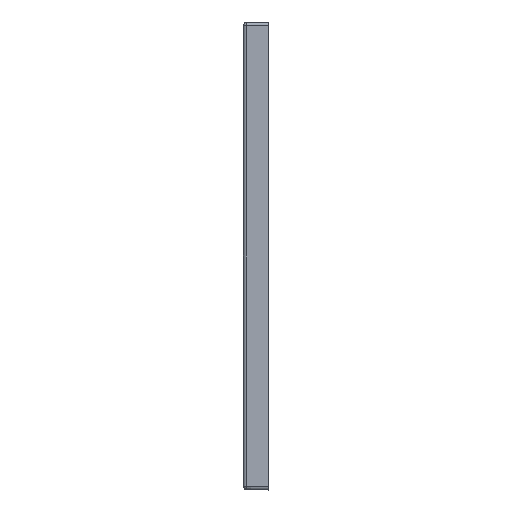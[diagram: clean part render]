
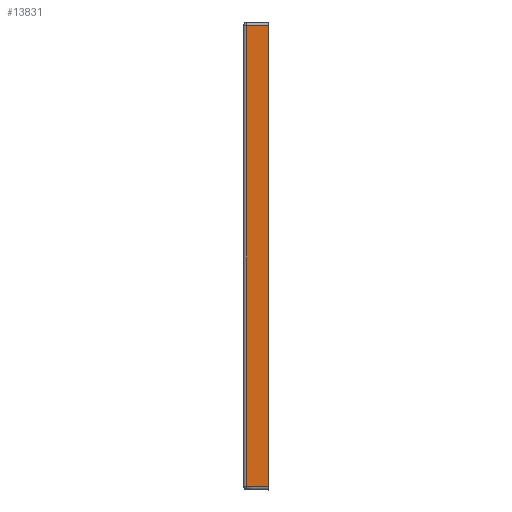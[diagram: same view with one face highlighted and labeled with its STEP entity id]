
A CAD part, left-side view. The second image highlights one B-rep face of the part: STEP entity #13831.
In plain terms, the highlighted planar face has unit normal (-1, 0.018, 0).
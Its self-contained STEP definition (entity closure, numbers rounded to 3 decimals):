
#2021 = DIRECTION ( 'NONE',  ( -1., 0.017, 0. ) ) ;
#2779 = VECTOR ( 'NONE', #4798, 1000. ) ;
#3385 = EDGE_CURVE ( 'NONE', #20992, #15025, #26857, .T. ) ;
#4798 = DIRECTION ( 'NONE',  ( 0.017, 1., -0.017 ) ) ;
#4897 = VECTOR ( 'NONE', #27032, 1000. ) ;
#6181 = VECTOR ( 'NONE', #32634, 1000. ) ;
#6645 = EDGE_CURVE ( 'NONE', #6937, #33207, #13080, .T. ) ;
#6937 = VERTEX_POINT ( 'NONE', #8892 ) ;
#8892 = CARTESIAN_POINT ( 'NONE',  ( -450.663, -38., -500.664 ) ) ;
#9151 = DIRECTION ( 'NONE',  ( 0., 0., 1. ) ) ;
#9464 = ORIENTED_EDGE ( 'NONE', *, *, #6645, .T. ) ;
#9500 = AXIS2_PLACEMENT_3D ( 'NONE', #25942, #2021, #33953 ) ;
#10036 = CARTESIAN_POINT ( 'NONE',  ( -450.663, -38., 190.664 ) ) ;
#11028 = ORIENTED_EDGE ( 'NONE', *, *, #24495, .T. ) ;
#12004 = ORIENTED_EDGE ( 'NONE', *, *, #18039, .T. ) ;
#13080 = LINE ( 'NONE', #28445, #13294 ) ;
#13294 = VECTOR ( 'NONE', #9151, 1000. ) ;
#13831 = ADVANCED_FACE ( 'NONE', ( #15458 ), #15296, .T. ) ;
#15025 = VERTEX_POINT ( 'NONE', #33453 ) ;
#15296 = PLANE ( 'NONE',  #9500 ) ;
#15458 = FACE_OUTER_BOUND ( 'NONE', #25928, .T. ) ;
#15608 = CARTESIAN_POINT ( 'NONE',  ( -449.788, 12.124, 189.789 ) ) ;
#18039 = EDGE_CURVE ( 'NONE', #15025, #6937, #19046, .T. ) ;
#19046 = LINE ( 'NONE', #22026, #6181 ) ;
#20992 = VERTEX_POINT ( 'NONE', #26863 ) ;
#21820 = CARTESIAN_POINT ( 'NONE',  ( -450.086, -4.913, -505. ) ) ;
#22026 = CARTESIAN_POINT ( 'NONE',  ( -450.002, -0.087, -500.002 ) ) ;
#24495 = EDGE_CURVE ( 'NONE', #33207, #20992, #29040, .T. ) ;
#25928 = EDGE_LOOP ( 'NONE', ( #31115, #12004, #9464, #11028 ) ) ;
#25942 = CARTESIAN_POINT ( 'NONE',  ( -450., 0., -505. ) ) ;
#26857 = LINE ( 'NONE', #21820, #4897 ) ;
#26863 = CARTESIAN_POINT ( 'NONE',  ( -450.086, -4.913, 190.087 ) ) ;
#27032 = DIRECTION ( 'NONE',  ( 0., 0., -1. ) ) ;
#28445 = CARTESIAN_POINT ( 'NONE',  ( -450.663, -38., 195. ) ) ;
#29040 = LINE ( 'NONE', #15608, #2779 ) ;
#31115 = ORIENTED_EDGE ( 'NONE', *, *, #3385, .T. ) ;
#32634 = DIRECTION ( 'NONE',  ( -0.017, -1., -0.017 ) ) ;
#33207 = VERTEX_POINT ( 'NONE', #10036 ) ;
#33453 = CARTESIAN_POINT ( 'NONE',  ( -450.086, -4.913, -500.087 ) ) ;
#33953 = DIRECTION ( 'NONE',  ( -0.017, -1., 0. ) ) ;
